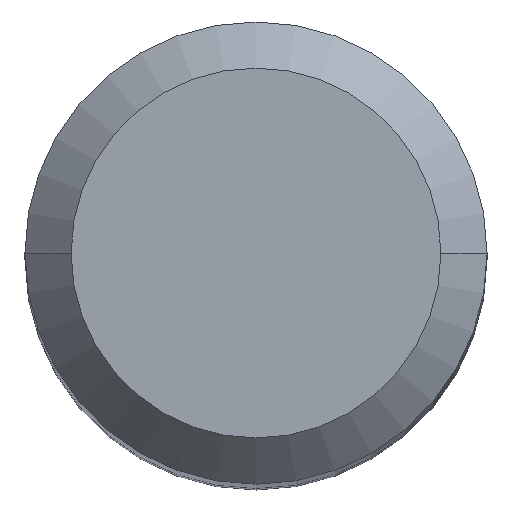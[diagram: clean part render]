
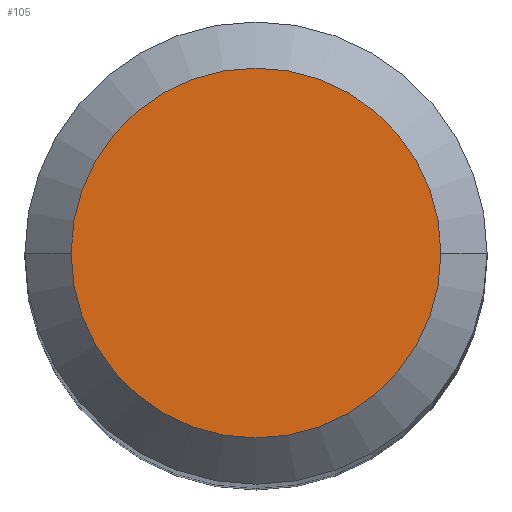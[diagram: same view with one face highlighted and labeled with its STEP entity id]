
A CAD part, top view. The second image highlights one B-rep face of the part: STEP entity #105.
In plain terms, the highlighted planar face has unit normal (0, 0, 1).
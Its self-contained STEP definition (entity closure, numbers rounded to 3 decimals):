
#1 = PLANE ( 'NONE',  #141 ) ;
#2 = ORIENTED_EDGE ( 'NONE', *, *, #190, .F. ) ;
#14 = CARTESIAN_POINT ( 'NONE',  ( 6., 0., 0. ) ) ;
#19 = DIRECTION ( 'NONE',  ( 0., 0., -1. ) ) ;
#83 = VERTEX_POINT ( 'NONE', #217 ) ;
#88 = CARTESIAN_POINT ( 'NONE',  ( 0., 0., 0. ) ) ;
#105 = ADVANCED_FACE ( 'NONE', ( #269 ), #1, .T. ) ;
#128 = DIRECTION ( 'NONE',  ( 0., 0., 1. ) ) ;
#131 = CARTESIAN_POINT ( 'NONE',  ( 0., 6., 0. ) ) ;
#141 = AXIS2_PLACEMENT_3D ( 'NONE', #131, #128, #240 ) ;
#159 = VERTEX_POINT ( 'NONE', #14 ) ;
#184 = EDGE_CURVE ( 'NONE', #83, #159, #360, .T. ) ;
#187 = EDGE_LOOP ( 'NONE', ( #247, #2 ) ) ;
#190 = EDGE_CURVE ( 'NONE', #159, #83, #220, .T. ) ;
#217 = CARTESIAN_POINT ( 'NONE',  ( -6., 0., 0. ) ) ;
#220 = CIRCLE ( 'NONE', #327, 6. ) ;
#227 = DIRECTION ( 'NONE',  ( 0., 0., -1. ) ) ;
#240 = DIRECTION ( 'NONE',  ( 1., 0., 0. ) ) ;
#242 = AXIS2_PLACEMENT_3D ( 'NONE', #88, #19, #254 ) ;
#247 = ORIENTED_EDGE ( 'NONE', *, *, #184, .F. ) ;
#254 = DIRECTION ( 'NONE',  ( -1., 0., 0. ) ) ;
#269 = FACE_OUTER_BOUND ( 'NONE', #187, .T. ) ;
#293 = CARTESIAN_POINT ( 'NONE',  ( 0., 0., 0. ) ) ;
#327 = AXIS2_PLACEMENT_3D ( 'NONE', #293, #227, #381 ) ;
#360 = CIRCLE ( 'NONE', #242, 6. ) ;
#381 = DIRECTION ( 'NONE',  ( -1., 0., 0. ) ) ;
